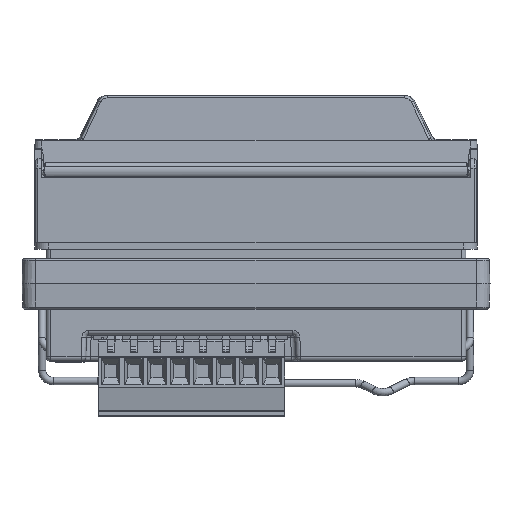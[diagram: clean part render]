
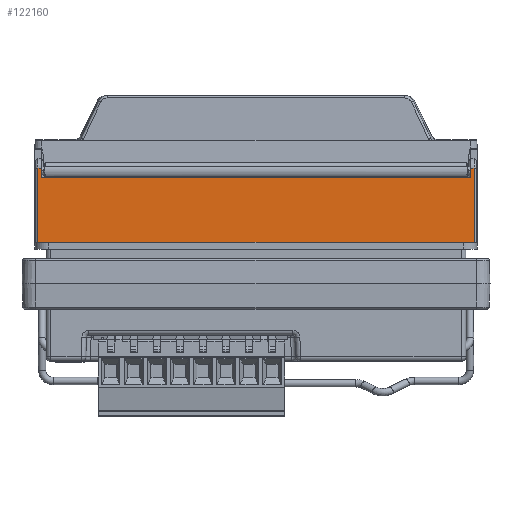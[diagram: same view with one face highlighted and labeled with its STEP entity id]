
A CAD part, front view. The second image highlights one B-rep face of the part: STEP entity #122160.
In plain terms, the highlighted planar face has unit normal (0, -1, 0).
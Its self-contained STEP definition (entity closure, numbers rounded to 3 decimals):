
#6723 = ORIENTED_EDGE ( 'NONE', *, *, #126121, .T. ) ;
#10719 = ORIENTED_EDGE ( 'NONE', *, *, #295262, .T. ) ;
#11234 = CARTESIAN_POINT ( 'NONE',  ( -47.3, -24., 14.2 ) ) ;
#19334 = CARTESIAN_POINT ( 'NONE',  ( 47.3, -24., 14.2 ) ) ;
#20070 = CARTESIAN_POINT ( 'NONE',  ( -48., -24., -1.9 ) ) ;
#20708 = DIRECTION ( 'NONE',  ( 0., -1., 0. ) ) ;
#26583 = LINE ( 'NONE', #53324, #54854 ) ;
#26598 = VECTOR ( 'NONE', #237752, 1000. ) ;
#29603 = CARTESIAN_POINT ( 'NONE',  ( -46.517, -24., 12.1 ) ) ;
#49718 = DIRECTION ( 'NONE',  ( 0.017, 0., -1. ) ) ;
#51206 = ORIENTED_EDGE ( 'NONE', *, *, #205779, .T. ) ;
#52250 = ORIENTED_EDGE ( 'NONE', *, *, #82463, .F. ) ;
#53324 = CARTESIAN_POINT ( 'NONE',  ( 46.244, -24., -3.545 ) ) ;
#54854 = VECTOR ( 'NONE', #98307, 1000. ) ;
#55783 = EDGE_CURVE ( 'NONE', #212997, #282343, #72254, .T. ) ;
#60122 = VERTEX_POINT ( 'NONE', #87387 ) ;
#68010 = DIRECTION ( 'NONE',  ( -1., 0., 0. ) ) ;
#69509 = LINE ( 'NONE', #129835, #283304 ) ;
#69514 = LINE ( 'NONE', #181829, #78493 ) ;
#72254 = LINE ( 'NONE', #209977, #253976 ) ;
#76979 = EDGE_CURVE ( 'NONE', #183755, #201242, #294020, .T. ) ;
#78493 = VECTOR ( 'NONE', #68010, 1000. ) ;
#82463 = EDGE_CURVE ( 'NONE', #282343, #148491, #149724, .T. ) ;
#87387 = CARTESIAN_POINT ( 'NONE',  ( 46.554, -24., 14.2 ) ) ;
#98307 = DIRECTION ( 'NONE',  ( -0.017, 0., -1. ) ) ;
#104697 = CARTESIAN_POINT ( 'NONE',  ( -46.5, -24., 12.1 ) ) ;
#111340 = DIRECTION ( 'NONE',  ( 1., 0., 0. ) ) ;
#114179 = EDGE_LOOP ( 'NONE', ( #6723, #221714, #155661, #132208, #10719, #51206, #52250, #144813 ) ) ;
#122160 = ADVANCED_FACE ( 'NONE', ( #216943 ), #167669, .T. ) ;
#126121 = EDGE_CURVE ( 'NONE', #212997, #267535, #69514, .T. ) ;
#126920 = LINE ( 'NONE', #146413, #26598 ) ;
#129835 = CARTESIAN_POINT ( 'NONE',  ( -47.3, -24., -1.9 ) ) ;
#131699 = DIRECTION ( 'NONE',  ( 0., 0., 1. ) ) ;
#132208 = ORIENTED_EDGE ( 'NONE', *, *, #295006, .T. ) ;
#144813 = ORIENTED_EDGE ( 'NONE', *, *, #55783, .F. ) ;
#146413 = CARTESIAN_POINT ( 'NONE',  ( 46.589, -24., 14.2 ) ) ;
#147443 = CARTESIAN_POINT ( 'NONE',  ( 47.3, -24., -1.9 ) ) ;
#148491 = VERTEX_POINT ( 'NONE', #213762 ) ;
#148553 = EDGE_CURVE ( 'NONE', #267535, #183755, #69509, .T. ) ;
#149724 = LINE ( 'NONE', #104697, #293258 ) ;
#155661 = ORIENTED_EDGE ( 'NONE', *, *, #76979, .T. ) ;
#160595 = AXIS2_PLACEMENT_3D ( 'NONE', #248324, #20708, #203419 ) ;
#167669 = PLANE ( 'NONE',  #160595 ) ;
#169966 = CARTESIAN_POINT ( 'NONE',  ( -47.3, -24., -1.9 ) ) ;
#181829 = CARTESIAN_POINT ( 'NONE',  ( -47.8, -24., 14.2 ) ) ;
#183755 = VERTEX_POINT ( 'NONE', #169966 ) ;
#196715 = CARTESIAN_POINT ( 'NONE',  ( -46.554, -24., 14.2 ) ) ;
#201242 = VERTEX_POINT ( 'NONE', #147443 ) ;
#203419 = DIRECTION ( 'NONE',  ( 0., 0., -1. ) ) ;
#205779 = EDGE_CURVE ( 'NONE', #60122, #148491, #26583, .T. ) ;
#209977 = CARTESIAN_POINT ( 'NONE',  ( -46.5, -24., 11.1 ) ) ;
#212997 = VERTEX_POINT ( 'NONE', #196715 ) ;
#213762 = CARTESIAN_POINT ( 'NONE',  ( 46.517, -24., 12.1 ) ) ;
#216943 = FACE_OUTER_BOUND ( 'NONE', #114179, .T. ) ;
#221714 = ORIENTED_EDGE ( 'NONE', *, *, #148553, .T. ) ;
#222383 = VECTOR ( 'NONE', #131699, 1000. ) ;
#228260 = DIRECTION ( 'NONE',  ( 0., 0., -1. ) ) ;
#237641 = VERTEX_POINT ( 'NONE', #280444 ) ;
#237752 = DIRECTION ( 'NONE',  ( -1., 0., 0. ) ) ;
#241096 = DIRECTION ( 'NONE',  ( 1., 0., 0. ) ) ;
#248324 = CARTESIAN_POINT ( 'NONE',  ( -48., -24., -1.9 ) ) ;
#253976 = VECTOR ( 'NONE', #49718, 1000. ) ;
#267535 = VERTEX_POINT ( 'NONE', #11234 ) ;
#273361 = VECTOR ( 'NONE', #111340, 1000. ) ;
#280444 = CARTESIAN_POINT ( 'NONE',  ( 47.3, -24., 14.2 ) ) ;
#282343 = VERTEX_POINT ( 'NONE', #29603 ) ;
#283304 = VECTOR ( 'NONE', #228260, 1000. ) ;
#293258 = VECTOR ( 'NONE', #241096, 1000. ) ;
#294020 = LINE ( 'NONE', #20070, #273361 ) ;
#294776 = LINE ( 'NONE', #19334, #222383 ) ;
#295006 = EDGE_CURVE ( 'NONE', #201242, #237641, #294776, .T. ) ;
#295262 = EDGE_CURVE ( 'NONE', #237641, #60122, #126920, .T. ) ;
